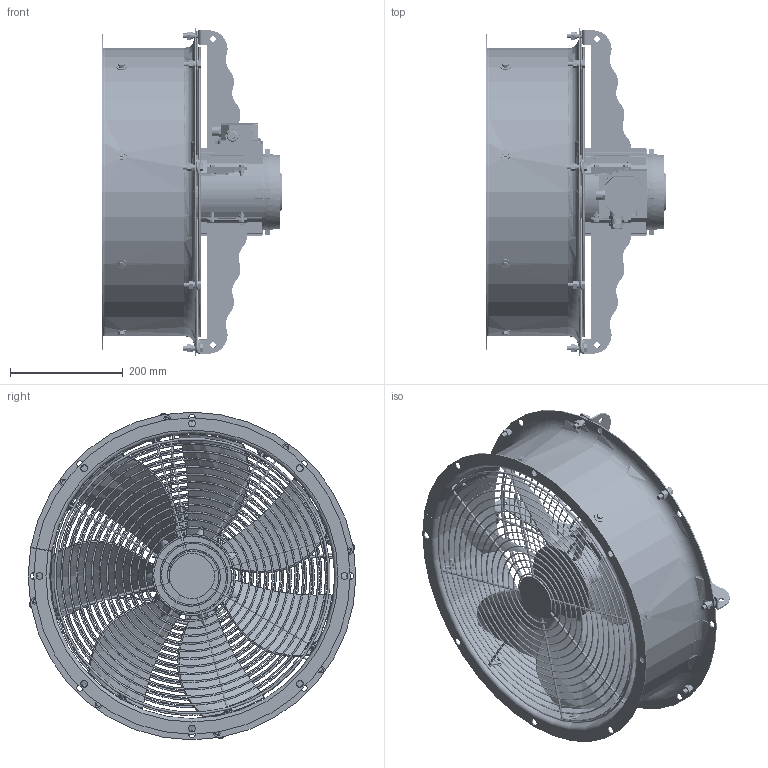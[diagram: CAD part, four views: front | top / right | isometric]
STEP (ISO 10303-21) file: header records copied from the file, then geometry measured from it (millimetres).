
FILE_DESCRIPTION (( 'STEP AP203' ), '1' );
FILE_NAME ('20.18597-1 VAAZ C 500 M80 B30.STEP', '2020-12-08T11:01:24', ( '' ), ( '' ), 'SwSTEP 2.0', 'SolidWorks 2020', '' );
FILE_SCHEMA (( 'CONFIG_CONTROL_DESIGN' ));
Length unit declared in the file: millimetre
Products named in the file (11): 5AZ 80 B30  BVK SS; 175250 Zaštitna rešetka usisna; Vijèani spoj M6x16 sa šestbid gl; 168836 KUCISTE VAAZ C 500 D580 L167; 20.18597-1 VAAZ C 500 M80 B30; 175249 izd B Nosaè C 500 M80 D580_¬.0361; Vijèani spoj M5x14; Vijèani spoj M8x30; Impeler pojednostavljeno; 1645390 Zaštitna rešetka ispušna_VAAZ C500; Vijèani spoj M8x25
Assembly tree (41 placements, depth 2):
  20.18597-1 VAAZ C 500 M80 B30
    168836 KUCISTE VAAZ C 500 D580 L167
    1645390 Zaštitna rešetka ispušna_VAAZ C500
    Vijèani spoj M8x25  x4
    Vijèani spoj M8x30  x4
    Vijèani spoj M6x16 sa šestbid gl  x8
    5AZ 80 B30  BVK SS
    175249 izd B Nosaè C 500 M80 D580_¬.0361  x4
    175250 Zaštitna rešetka usisna
    Vijèani spoj M5x14  x16
    Impeler pojednostavljeno
Bounding box: 319.5 x 580 x 580 mm (x, y, z)
Volume: 3333114.4 mm3; surface area: 1954762.1 mm2
Topology: 148 solids, 148 shells, 2077 faces, 4926 edges, 3174 vertices
Faces by surface type: plane 1375, cylinder 573, bspline 54, torus 40, cone 35
Full cylindrical faces by diameter (mm): 4 x24, 4.5 x4, 5 x57, 6 x52, 6.4 x1, 7 x8, 8 x48, 9 x8, 10 x5, 10.5 x1, 12 x41, 14.2 x8, 17 x1, 18 x8, 18.5 x1, 18.6 x1, 19 x1, 19.6 x2, 19.9 x1, 20 x5, 23 x2, 24.9 x2, 25.04 x1, 40 x1, 55.714 x2, 68.8 x2, 80 x1, 90 x1, 120.4 x2, 124 x1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
Entity records: 61732 total; most frequent: CARTESIAN_POINT 32527, DIRECTION 5705, ORIENTED_EDGE 5234, EDGE_CURVE 2617, AXIS2_PLACEMENT_3D 2114, VERTEX_POINT 1804, EDGE_LOOP 1581, VECTOR 1477
